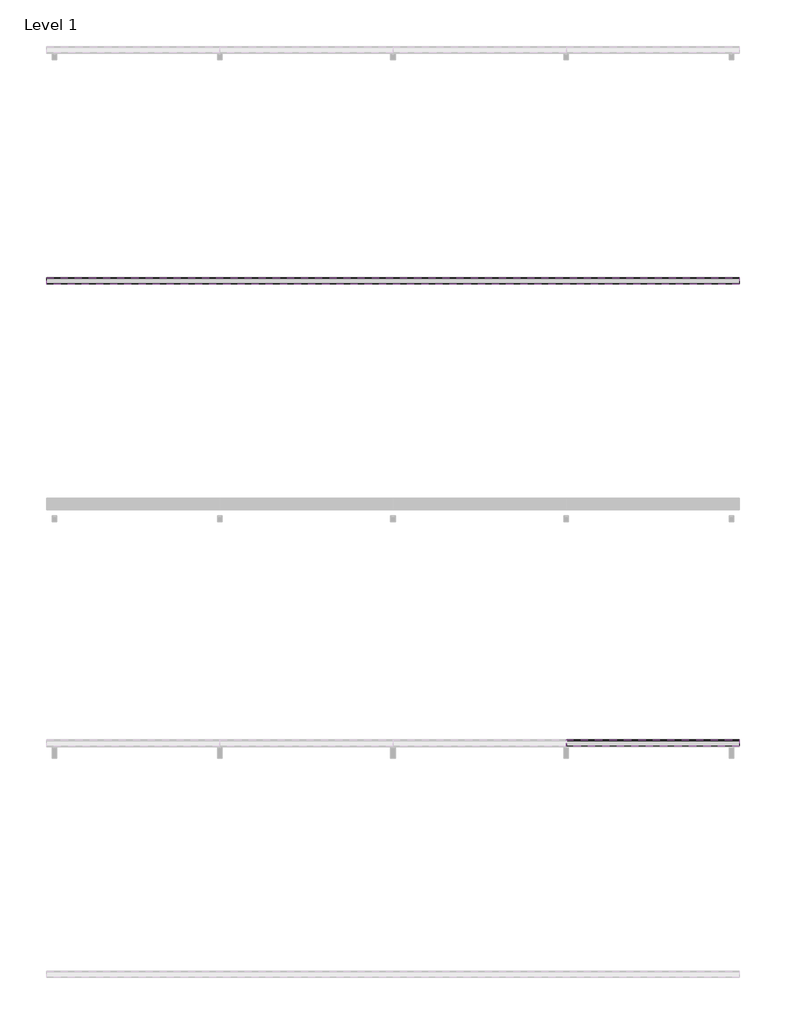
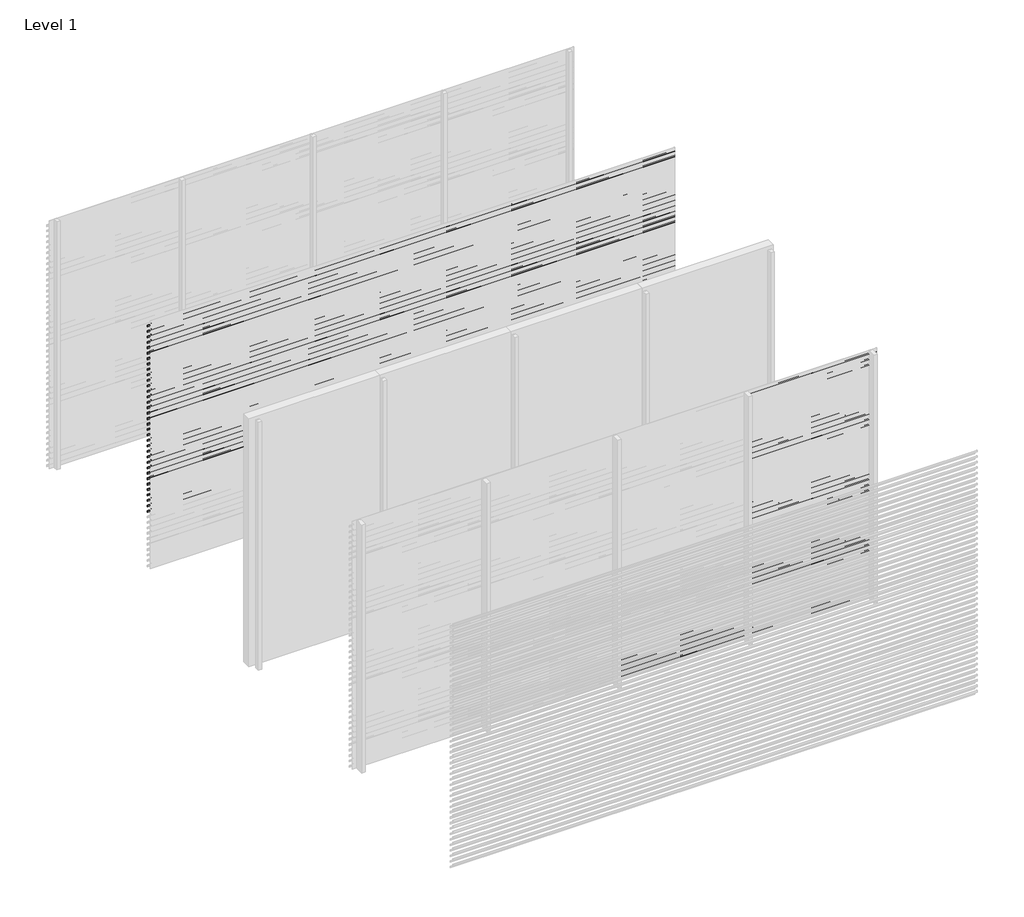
# One storey, part 10 of 25: 87 proxies.
"""IFC4 building model written with IfcOpenShell, lengths in millimetres."""

from ifc_helpers import new_model, si_unit, frame, origin, place, context, project, spatial, polyline, outline, extrude, element, save

model = new_model("IFC4")

# Units and contexts
model_context = context("Model", 3, world=origin())
ifc_project = project(units=[si_unit("LENGTHUNIT", "METRE", prefix="MILLI")], contexts=[model_context])

# Site, building, storey
site = spatial("IfcSite", under=ifc_project)
building = spatial("IfcBuilding", under=site)
storey = spatial("IfcBuildingStorey", under=building, Name="Level 1", Elevation=0.0)

# Proxies
placement = place(None, origin())
element("IfcBuildingElementProxy", 1, Name="Wall Sweeps", at=placement, inside=storey, context=model_context, shape_type="SweptSolid", body=[
    extrude(outline(polyline([(-31943.0, 2913.5), (-31943.0, 2893.5), (-31944.25, 2894.2216933), (-31944.25, 2912.7872415), (-31998.0, 2950.3158044), (-31998.0, 2970.0), (-31996.75, 2970.0), (-31996.75, 2951.0285629), (-31943.0, 2913.5)])), frame((0.0, 0.0, 0.0), z_axis=(1.0, 0.0, 0.0), x_axis=(0.0, 1.0, 0.0)), (0.0, 0.0, 1.0), 6000.0),
])
element("IfcBuildingElementProxy", 2, Name="Wall Sweeps", at=placement, inside=storey, context=model_context, shape_type="SweptSolid", body=[
    extrude(outline(polyline([(-31943.0, 2847.5), (-31943.0, 2827.5), (-31944.25, 2828.2216933), (-31944.25, 2846.7872415), (-31998.0, 2884.3158044), (-31998.0, 2904.0), (-31996.75, 2904.0), (-31996.75, 2885.0285629), (-31943.0, 2847.5)])), frame((0.0, 0.0, 0.0), z_axis=(1.0, 0.0, 0.0), x_axis=(0.0, 1.0, 0.0)), (0.0, 0.0, 1.0), 6000.0),
])
element("IfcBuildingElementProxy", 3, Name="Wall Sweeps", at=placement, inside=storey, context=model_context, shape_type="SweptSolid", body=[
    extrude(outline(polyline([(-31943.0, 2781.5), (-31943.0, 2761.5), (-31944.25, 2762.2216933), (-31944.25, 2780.7872415), (-31998.0, 2818.3158044), (-31998.0, 2838.0), (-31996.75, 2838.0), (-31996.75, 2819.0285629), (-31943.0, 2781.5)])), frame((0.0, 0.0, 0.0), z_axis=(1.0, 0.0, 0.0), x_axis=(0.0, 1.0, 0.0)), (0.0, 0.0, 1.0), 6000.0),
])
element("IfcBuildingElementProxy", 4, Name="Wall Sweeps", at=placement, inside=storey, context=model_context, shape_type="SweptSolid", body=[
    extrude(outline(polyline([(-31943.0, 2715.5), (-31943.0, 2695.5), (-31944.25, 2696.2216933), (-31944.25, 2714.7872415), (-31998.0, 2752.3158044), (-31998.0, 2772.0), (-31996.75, 2772.0), (-31996.75, 2753.0285629), (-31943.0, 2715.5)])), frame((0.0, 0.0, 0.0), z_axis=(1.0, 0.0, 0.0), x_axis=(0.0, 1.0, 0.0)), (0.0, 0.0, 1.0), 6000.0),
])
element("IfcBuildingElementProxy", 5, Name="Wall Sweeps", at=placement, inside=storey, context=model_context, shape_type="SweptSolid", body=[
    extrude(outline(polyline([(-31943.0, 2649.5), (-31943.0, 2629.5), (-31944.25, 2630.2216933), (-31944.25, 2648.7872415), (-31998.0, 2686.3158044), (-31998.0, 2706.0), (-31996.75, 2706.0), (-31996.75, 2687.0285629), (-31943.0, 2649.5)])), frame((0.0, 0.0, 0.0), z_axis=(1.0, 0.0, 0.0), x_axis=(0.0, 1.0, 0.0)), (0.0, 0.0, 1.0), 6000.0),
])
element("IfcBuildingElementProxy", 6, Name="Wall Sweeps", at=placement, inside=storey, context=model_context, shape_type="SweptSolid", body=[
    extrude(outline(polyline([(-31943.0, 2583.5), (-31943.0, 2563.5), (-31944.25, 2564.2216933), (-31944.25, 2582.7872415), (-31998.0, 2620.3158044), (-31998.0, 2640.0), (-31996.75, 2640.0), (-31996.75, 2621.0285629), (-31943.0, 2583.5)])), frame((0.0, 0.0, 0.0), z_axis=(1.0, 0.0, 0.0), x_axis=(0.0, 1.0, 0.0)), (0.0, 0.0, 1.0), 6000.0),
])
element("IfcBuildingElementProxy", 7, Name="Wall Sweeps", at=placement, inside=storey, context=model_context, shape_type="SweptSolid", body=[
    extrude(outline(polyline([(-31943.0, 2517.5), (-31943.0, 2497.5), (-31944.25, 2498.2216933), (-31944.25, 2516.7872415), (-31998.0, 2554.3158044), (-31998.0, 2574.0), (-31996.75, 2574.0), (-31996.75, 2555.0285629), (-31943.0, 2517.5)])), frame((0.0, 0.0, 0.0), z_axis=(1.0, 0.0, 0.0), x_axis=(0.0, 1.0, 0.0)), (0.0, 0.0, 1.0), 6000.0),
])
element("IfcBuildingElementProxy", 8, Name="Wall Sweeps", at=placement, inside=storey, context=model_context, shape_type="SweptSolid", body=[
    extrude(outline(polyline([(-31943.0, 2451.5), (-31943.0, 2431.5), (-31944.25, 2432.2216933), (-31944.25, 2450.7872415), (-31998.0, 2488.3158044), (-31998.0, 2508.0), (-31996.75, 2508.0), (-31996.75, 2489.0285629), (-31943.0, 2451.5)])), frame((0.0, 0.0, 0.0), z_axis=(1.0, 0.0, 0.0), x_axis=(0.0, 1.0, 0.0)), (0.0, 0.0, 1.0), 6000.0),
])
element("IfcBuildingElementProxy", 9, Name="Wall Sweeps", at=placement, inside=storey, context=model_context, shape_type="SweptSolid", body=[
    extrude(outline(polyline([(-31943.0, 2385.5), (-31943.0, 2365.5), (-31944.25, 2366.2216933), (-31944.25, 2384.7872415), (-31998.0, 2422.3158044), (-31998.0, 2442.0), (-31996.75, 2442.0), (-31996.75, 2423.0285629), (-31943.0, 2385.5)])), frame((0.0, 0.0, 0.0), z_axis=(1.0, 0.0, 0.0), x_axis=(0.0, 1.0, 0.0)), (0.0, 0.0, 1.0), 6000.0),
])
element("IfcBuildingElementProxy", 10, Name="Wall Sweeps", at=placement, inside=storey, context=model_context, shape_type="SweptSolid", body=[
    extrude(outline(polyline([(-31943.0, 2319.5), (-31943.0, 2299.5), (-31944.25, 2300.2216933), (-31944.25, 2318.7872415), (-31998.0, 2356.3158044), (-31998.0, 2376.0), (-31996.75, 2376.0), (-31996.75, 2357.0285629), (-31943.0, 2319.5)])), frame((0.0, 0.0, 0.0), z_axis=(1.0, 0.0, 0.0), x_axis=(0.0, 1.0, 0.0)), (0.0, 0.0, 1.0), 6000.0),
])
element("IfcBuildingElementProxy", 11, Name="Wall Sweeps", at=placement, inside=storey, context=model_context, shape_type="SweptSolid", body=[
    extrude(outline(polyline([(-31943.0, 2253.5), (-31943.0, 2233.5), (-31944.25, 2234.2216933), (-31944.25, 2252.7872415), (-31998.0, 2290.3158044), (-31998.0, 2310.0), (-31996.75, 2310.0), (-31996.75, 2291.0285629), (-31943.0, 2253.5)])), frame((0.0, 0.0, 0.0), z_axis=(1.0, 0.0, 0.0), x_axis=(0.0, 1.0, 0.0)), (0.0, 0.0, 1.0), 6000.0),
])
element("IfcBuildingElementProxy", 12, Name="Wall Sweeps", at=placement, inside=storey, context=model_context, shape_type="SweptSolid", body=[
    extrude(outline(polyline([(-31943.0, 2187.5), (-31943.0, 2167.5), (-31944.25, 2168.2216933), (-31944.25, 2186.7872415), (-31998.0, 2224.3158044), (-31998.0, 2244.0), (-31996.75, 2244.0), (-31996.75, 2225.0285629), (-31943.0, 2187.5)])), frame((0.0, 0.0, 0.0), z_axis=(1.0, 0.0, 0.0), x_axis=(0.0, 1.0, 0.0)), (0.0, 0.0, 1.0), 6000.0),
])
element("IfcBuildingElementProxy", 13, Name="Wall Sweeps", at=placement, inside=storey, context=model_context, shape_type="SweptSolid", body=[
    extrude(outline(polyline([(-31943.0, 2121.5), (-31943.0, 2101.5), (-31944.25, 2102.2216933), (-31944.25, 2120.7872415), (-31998.0, 2158.3158044), (-31998.0, 2178.0), (-31996.75, 2178.0), (-31996.75, 2159.0285629), (-31943.0, 2121.5)])), frame((0.0, 0.0, 0.0), z_axis=(1.0, 0.0, 0.0), x_axis=(0.0, 1.0, 0.0)), (0.0, 0.0, 1.0), 6000.0),
])
element("IfcBuildingElementProxy", 14, Name="Wall Sweeps", at=placement, inside=storey, context=model_context, shape_type="SweptSolid", body=[
    extrude(outline(polyline([(-31943.0, 2055.5), (-31943.0, 2035.5), (-31944.25, 2036.2216933), (-31944.25, 2054.7872415), (-31998.0, 2092.3158044), (-31998.0, 2112.0), (-31996.75, 2112.0), (-31996.75, 2093.0285629), (-31943.0, 2055.5)])), frame((0.0, 0.0, 0.0), z_axis=(1.0, 0.0, 0.0), x_axis=(0.0, 1.0, 0.0)), (0.0, 0.0, 1.0), 6000.0),
])
element("IfcBuildingElementProxy", 15, Name="Wall Sweeps", at=placement, inside=storey, context=model_context, shape_type="SweptSolid", body=[
    extrude(outline(polyline([(-31943.0, 1989.5), (-31943.0, 1969.5), (-31944.25, 1970.2216933), (-31944.25, 1988.7872415), (-31998.0, 2026.3158044), (-31998.0, 2046.0), (-31996.75, 2046.0), (-31996.75, 2027.0285629), (-31943.0, 1989.5)])), frame((0.0, 0.0, 0.0), z_axis=(1.0, 0.0, 0.0), x_axis=(0.0, 1.0, 0.0)), (0.0, 0.0, 1.0), 6000.0),
])
element("IfcBuildingElementProxy", 16, Name="Wall Sweeps", at=placement, inside=storey, context=model_context, shape_type="SweptSolid", body=[
    extrude(outline(polyline([(-31943.0, 1923.5), (-31943.0, 1903.5), (-31944.25, 1904.2216933), (-31944.25, 1922.7872415), (-31998.0, 1960.3158044), (-31998.0, 1980.0), (-31996.75, 1980.0), (-31996.75, 1961.0285629), (-31943.0, 1923.5)])), frame((0.0, 0.0, 0.0), z_axis=(1.0, 0.0, 0.0), x_axis=(0.0, 1.0, 0.0)), (0.0, 0.0, 1.0), 6000.0),
])
element("IfcBuildingElementProxy", 17, Name="Wall Sweeps", at=placement, inside=storey, context=model_context, shape_type="SweptSolid", body=[
    extrude(outline(polyline([(-31943.0, 1857.5), (-31943.0, 1837.5), (-31944.25, 1838.2216933), (-31944.25, 1856.7872415), (-31998.0, 1894.3158044), (-31998.0, 1914.0), (-31996.75, 1914.0), (-31996.75, 1895.0285629), (-31943.0, 1857.5)])), frame((0.0, 0.0, 0.0), z_axis=(1.0, 0.0, 0.0), x_axis=(0.0, 1.0, 0.0)), (0.0, 0.0, 1.0), 6000.0),
])
element("IfcBuildingElementProxy", 18, Name="Wall Sweeps", at=placement, inside=storey, context=model_context, shape_type="SweptSolid", body=[
    extrude(outline(polyline([(-31943.0, 1791.5), (-31943.0, 1771.5), (-31944.25, 1772.2216933), (-31944.25, 1790.7872415), (-31998.0, 1828.3158044), (-31998.0, 1848.0), (-31996.75, 1848.0), (-31996.75, 1829.0285629), (-31943.0, 1791.5)])), frame((0.0, 0.0, 0.0), z_axis=(1.0, 0.0, 0.0), x_axis=(0.0, 1.0, 0.0)), (0.0, 0.0, 1.0), 6000.0),
])
element("IfcBuildingElementProxy", 19, Name="Wall Sweeps", at=placement, inside=storey, context=model_context, shape_type="SweptSolid", body=[
    extrude(outline(polyline([(-31943.0, 1725.5), (-31943.0, 1705.5), (-31944.25, 1706.2216933), (-31944.25, 1724.7872415), (-31998.0, 1762.3158044), (-31998.0, 1782.0), (-31996.75, 1782.0), (-31996.75, 1763.0285629), (-31943.0, 1725.5)])), frame((0.0, 0.0, 0.0), z_axis=(1.0, 0.0, 0.0), x_axis=(0.0, 1.0, 0.0)), (0.0, 0.0, 1.0), 6000.0),
])
element("IfcBuildingElementProxy", 20, Name="Wall Sweeps", at=placement, inside=storey, context=model_context, shape_type="SweptSolid", body=[
    extrude(outline(polyline([(-31943.0, 1659.5), (-31943.0, 1639.5), (-31944.25, 1640.2216933), (-31944.25, 1658.7872415), (-31998.0, 1696.3158044), (-31998.0, 1716.0), (-31996.75, 1716.0), (-31996.75, 1697.0285629), (-31943.0, 1659.5)])), frame((0.0, 0.0, 0.0), z_axis=(1.0, 0.0, 0.0), x_axis=(0.0, 1.0, 0.0)), (0.0, 0.0, 1.0), 6000.0),
])
element("IfcBuildingElementProxy", 21, Name="Wall Sweeps", at=placement, inside=storey, context=model_context, shape_type="SweptSolid", body=[
    extrude(outline(polyline([(-31943.0, 1593.5), (-31943.0, 1573.5), (-31944.25, 1574.2216933), (-31944.25, 1592.7872415), (-31998.0, 1630.3158044), (-31998.0, 1650.0), (-31996.75, 1650.0), (-31996.75, 1631.0285629), (-31943.0, 1593.5)])), frame((0.0, 0.0, 0.0), z_axis=(1.0, 0.0, 0.0), x_axis=(0.0, 1.0, 0.0)), (0.0, 0.0, 1.0), 6000.0),
])
element("IfcBuildingElementProxy", 22, Name="Wall Sweeps", at=placement, inside=storey, context=model_context, shape_type="SweptSolid", body=[
    extrude(outline(polyline([(-31943.0, 1527.5), (-31943.0, 1507.5), (-31944.25, 1508.2216933), (-31944.25, 1526.7872415), (-31998.0, 1564.3158044), (-31998.0, 1584.0), (-31996.75, 1584.0), (-31996.75, 1565.0285629), (-31943.0, 1527.5)])), frame((0.0, 0.0, 0.0), z_axis=(1.0, 0.0, 0.0), x_axis=(0.0, 1.0, 0.0)), (0.0, 0.0, 1.0), 6000.0),
])
element("IfcBuildingElementProxy", 23, Name="Wall Sweeps", at=placement, inside=storey, context=model_context, shape_type="SweptSolid", body=[
    extrude(outline(polyline([(-31943.0, 1461.5), (-31943.0, 1441.5), (-31944.25, 1442.2216933), (-31944.25, 1460.7872415), (-31998.0, 1498.3158044), (-31998.0, 1518.0), (-31996.75, 1518.0), (-31996.75, 1499.0285629), (-31943.0, 1461.5)])), frame((0.0, 0.0, 0.0), z_axis=(1.0, 0.0, 0.0), x_axis=(0.0, 1.0, 0.0)), (0.0, 0.0, 1.0), 6000.0),
])
element("IfcBuildingElementProxy", 24, Name="Wall Sweeps", at=placement, inside=storey, context=model_context, shape_type="SweptSolid", body=[
    extrude(outline(polyline([(-31943.0, 1395.5), (-31943.0, 1375.5), (-31944.25, 1376.2216933), (-31944.25, 1394.7872415), (-31998.0, 1432.3158044), (-31998.0, 1452.0), (-31996.75, 1452.0), (-31996.75, 1433.0285629), (-31943.0, 1395.5)])), frame((0.0, 0.0, 0.0), z_axis=(1.0, 0.0, 0.0), x_axis=(0.0, 1.0, 0.0)), (0.0, 0.0, 1.0), 6000.0),
])
element("IfcBuildingElementProxy", 25, Name="Wall Sweeps", at=placement, inside=storey, context=model_context, shape_type="SweptSolid", body=[
    extrude(outline(polyline([(-31943.0, 1329.5), (-31943.0, 1309.5), (-31944.25, 1310.2216933), (-31944.25, 1328.7872415), (-31998.0, 1366.3158044), (-31998.0, 1386.0), (-31996.75, 1386.0), (-31996.75, 1367.0285629), (-31943.0, 1329.5)])), frame((0.0, 0.0, 0.0), z_axis=(1.0, 0.0, 0.0), x_axis=(0.0, 1.0, 0.0)), (0.0, 0.0, 1.0), 6000.0),
])
element("IfcBuildingElementProxy", 26, Name="Wall Sweeps", at=placement, inside=storey, context=model_context, shape_type="SweptSolid", body=[
    extrude(outline(polyline([(-31943.0, 1263.5), (-31943.0, 1243.5), (-31944.25, 1244.2216933), (-31944.25, 1262.7872415), (-31998.0, 1300.3158044), (-31998.0, 1320.0), (-31996.75, 1320.0), (-31996.75, 1301.0285629), (-31943.0, 1263.5)])), frame((0.0, 0.0, 0.0), z_axis=(1.0, 0.0, 0.0), x_axis=(0.0, 1.0, 0.0)), (0.0, 0.0, 1.0), 6000.0),
])
element("IfcBuildingElementProxy", 27, Name="Wall Sweeps", at=placement, inside=storey, context=model_context, shape_type="SweptSolid", body=[
    extrude(outline(polyline([(-31943.0, 1197.5), (-31943.0, 1177.5), (-31944.25, 1178.2216933), (-31944.25, 1196.7872415), (-31998.0, 1234.3158044), (-31998.0, 1254.0), (-31996.75, 1254.0), (-31996.75, 1235.0285629), (-31943.0, 1197.5)])), frame((0.0, 0.0, 0.0), z_axis=(1.0, 0.0, 0.0), x_axis=(0.0, 1.0, 0.0)), (0.0, 0.0, 1.0), 6000.0),
])
element("IfcBuildingElementProxy", 28, Name="Wall Sweeps", at=placement, inside=storey, context=model_context, shape_type="SweptSolid", body=[
    extrude(outline(polyline([(-31943.0, 1131.5), (-31943.0, 1111.5), (-31944.25, 1112.2216933), (-31944.25, 1130.7872415), (-31998.0, 1168.3158044), (-31998.0, 1188.0), (-31996.75, 1188.0), (-31996.75, 1169.0285629), (-31943.0, 1131.5)])), frame((0.0, 0.0, 0.0), z_axis=(1.0, 0.0, 0.0), x_axis=(0.0, 1.0, 0.0)), (0.0, 0.0, 1.0), 6000.0),
])
element("IfcBuildingElementProxy", 29, Name="Wall Sweeps", at=placement, inside=storey, context=model_context, shape_type="SweptSolid", body=[
    extrude(outline(polyline([(-31943.0, 1065.5), (-31943.0, 1045.5), (-31944.25, 1046.2216933), (-31944.25, 1064.7872415), (-31998.0, 1102.3158044), (-31998.0, 1122.0), (-31996.75, 1122.0), (-31996.75, 1103.0285629), (-31943.0, 1065.5)])), frame((0.0, 0.0, 0.0), z_axis=(1.0, 0.0, 0.0), x_axis=(0.0, 1.0, 0.0)), (0.0, 0.0, 1.0), 6000.0),
])
element("IfcBuildingElementProxy", 30, Name="Wall Sweeps", at=placement, inside=storey, context=model_context, shape_type="SweptSolid", body=[
    extrude(outline(polyline([(-31943.0, 999.5), (-31943.0, 979.5), (-31944.25, 980.2216933), (-31944.25, 998.7872415), (-31998.0, 1036.3158044), (-31998.0, 1056.0), (-31996.75, 1056.0), (-31996.75, 1037.0285629), (-31943.0, 999.5)])), frame((0.0, 0.0, 0.0), z_axis=(1.0, 0.0, 0.0), x_axis=(0.0, 1.0, 0.0)), (0.0, 0.0, 1.0), 6000.0),
])
element("IfcBuildingElementProxy", 31, Name="Wall Sweeps", at=placement, inside=storey, context=model_context, shape_type="SweptSolid", body=[
    extrude(outline(polyline([(-31943.0, 933.5), (-31943.0, 913.5), (-31944.25, 914.2216933), (-31944.25, 932.7872415), (-31998.0, 970.3158044), (-31998.0, 990.0), (-31996.75, 990.0), (-31996.75, 971.0285629), (-31943.0, 933.5)])), frame((0.0, 0.0, 0.0), z_axis=(1.0, 0.0, 0.0), x_axis=(0.0, 1.0, 0.0)), (0.0, 0.0, 1.0), 6000.0),
])
element("IfcBuildingElementProxy", 32, Name="Wall Sweeps", at=placement, inside=storey, context=model_context, shape_type="SweptSolid", body=[
    extrude(outline(polyline([(-31943.0, 867.5), (-31943.0, 847.5), (-31944.25, 848.2216933), (-31944.25, 866.7872415), (-31998.0, 904.3158044), (-31998.0, 924.0), (-31996.75, 924.0), (-31996.75, 905.0285629), (-31943.0, 867.5)])), frame((0.0, 0.0, 0.0), z_axis=(1.0, 0.0, 0.0), x_axis=(0.0, 1.0, 0.0)), (0.0, 0.0, 1.0), 6000.0),
])
element("IfcBuildingElementProxy", 33, Name="Wall Sweeps", at=placement, inside=storey, context=model_context, shape_type="SweptSolid", body=[
    extrude(outline(polyline([(-31943.0, 801.5), (-31943.0, 781.5), (-31944.25, 782.2216933), (-31944.25, 800.7872415), (-31998.0, 838.3158044), (-31998.0, 858.0), (-31996.75, 858.0), (-31996.75, 839.0285629), (-31943.0, 801.5)])), frame((0.0, 0.0, 0.0), z_axis=(1.0, 0.0, 0.0), x_axis=(0.0, 1.0, 0.0)), (0.0, 0.0, 1.0), 6000.0),
])
element("IfcBuildingElementProxy", 34, Name="Wall Sweeps", at=placement, inside=storey, context=model_context, shape_type="SweptSolid", body=[
    extrude(outline(polyline([(-31943.0, 735.5), (-31943.0, 715.5), (-31944.25, 716.2216933), (-31944.25, 734.7872415), (-31998.0, 772.3158044), (-31998.0, 792.0), (-31996.75, 792.0), (-31996.75, 773.0285629), (-31943.0, 735.5)])), frame((0.0, 0.0, 0.0), z_axis=(1.0, 0.0, 0.0), x_axis=(0.0, 1.0, 0.0)), (0.0, 0.0, 1.0), 6000.0),
])
element("IfcBuildingElementProxy", 35, Name="Wall Sweeps", at=placement, inside=storey, context=model_context, shape_type="SweptSolid", body=[
    extrude(outline(polyline([(-31943.0, 669.5), (-31943.0, 649.5), (-31944.25, 650.2216933), (-31944.25, 668.7872415), (-31998.0, 706.3158044), (-31998.0, 726.0), (-31996.75, 726.0), (-31996.75, 707.0285629), (-31943.0, 669.5)])), frame((0.0, 0.0, 0.0), z_axis=(1.0, 0.0, 0.0), x_axis=(0.0, 1.0, 0.0)), (0.0, 0.0, 1.0), 6000.0),
])
element("IfcBuildingElementProxy", 36, Name="Wall Sweeps", at=placement, inside=storey, context=model_context, shape_type="SweptSolid", body=[
    extrude(outline(polyline([(-35943.0, 405.5), (-35943.0, 385.5), (-35944.25, 386.2216933), (-35944.25, 404.7872415), (-35998.0, 442.3158044), (-35998.0, 462.0), (-35996.75, 462.0), (-35996.75, 443.0285629), (-35943.0, 405.5)])), frame((3000.0, 0.0, 0.0), z_axis=(1.0, 0.0, 0.0), x_axis=(0.0, 1.0, 0.0)), (0.0, 0.0, 1.0), 1500.0),
])
element("IfcBuildingElementProxy", 37, Name="Wall Sweeps", at=placement, inside=storey, context=model_context, shape_type="SweptSolid", body=[
    extrude(outline(polyline([(-35943.0, 339.5), (-35943.0, 319.5), (-35944.25, 320.2216933), (-35944.25, 338.7872415), (-35998.0, 376.3158044), (-35998.0, 396.0), (-35996.75, 396.0), (-35996.75, 377.0285629), (-35943.0, 339.5)])), frame((3000.0, 0.0, 0.0), z_axis=(1.0, 0.0, 0.0), x_axis=(0.0, 1.0, 0.0)), (0.0, 0.0, 1.0), 1500.0),
])
element("IfcBuildingElementProxy", 38, Name="Wall Sweeps", at=placement, inside=storey, context=model_context, shape_type="SweptSolid", body=[
    extrude(outline(polyline([(-35943.0, 273.5), (-35943.0, 253.5), (-35944.25, 254.2216933), (-35944.25, 272.7872415), (-35998.0, 310.3158044), (-35998.0, 330.0), (-35996.75, 330.0), (-35996.75, 311.0285629), (-35943.0, 273.5)])), frame((3000.0, 0.0, 0.0), z_axis=(1.0, 0.0, 0.0), x_axis=(0.0, 1.0, 0.0)), (0.0, 0.0, 1.0), 1500.0),
])
element("IfcBuildingElementProxy", 39, Name="Wall Sweeps", at=placement, inside=storey, context=model_context, shape_type="SweptSolid", body=[
    extrude(outline(polyline([(-35943.0, 207.5), (-35943.0, 187.5), (-35944.25, 188.2216933), (-35944.25, 206.7872415), (-35998.0, 244.3158044), (-35998.0, 264.0), (-35996.75, 264.0), (-35996.75, 245.0285629), (-35943.0, 207.5)])), frame((3000.0, 0.0, 0.0), z_axis=(1.0, 0.0, 0.0), x_axis=(0.0, 1.0, 0.0)), (0.0, 0.0, 1.0), 1500.0),
])
element("IfcBuildingElementProxy", 40, Name="Wall Sweeps", at=placement, inside=storey, context=model_context, shape_type="SweptSolid", body=[
    extrude(outline(polyline([(-35943.0, 141.5), (-35943.0, 121.5), (-35944.25, 122.2216933), (-35944.25, 140.7872415), (-35998.0, 178.3158044), (-35998.0, 198.0), (-35996.75, 198.0), (-35996.75, 179.0285629), (-35943.0, 141.5)])), frame((3000.0, 0.0, 0.0), z_axis=(1.0, 0.0, 0.0), x_axis=(0.0, 1.0, 0.0)), (0.0, 0.0, 1.0), 1500.0),
])
element("IfcBuildingElementProxy", 41, Name="Wall Sweeps", at=placement, inside=storey, context=model_context, shape_type="SweptSolid", body=[
    extrude(outline(polyline([(-35943.0, 75.5), (-35943.0, 55.5), (-35944.25, 56.2216933), (-35944.25, 74.7872415), (-35998.0, 112.3158044), (-35998.0, 132.0), (-35996.75, 132.0), (-35996.75, 113.0285629), (-35943.0, 75.5)])), frame((3000.0, 0.0, 0.0), z_axis=(1.0, 0.0, 0.0), x_axis=(0.0, 1.0, 0.0)), (0.0, 0.0, 1.0), 1500.0),
])
element("IfcBuildingElementProxy", 42, Name="Wall Sweeps", at=placement, inside=storey, context=model_context, shape_type="SweptSolid", body=[
    extrude(outline(polyline([(-35943.0, 9.5), (-35943.0, -10.5), (-35944.25, -9.7783067), (-35944.25, 8.7872415), (-35998.0, 46.3158044), (-35998.0, 66.0), (-35996.75, 66.0), (-35996.75, 47.0285629), (-35943.0, 9.5)])), frame((3000.0, 0.0, 0.0), z_axis=(1.0, 0.0, 0.0), x_axis=(0.0, 1.0, 0.0)), (0.0, 0.0, 1.0), 1500.0),
])
element("IfcBuildingElementProxy", 43, Name="Wall Sweeps", at=placement, inside=storey, context=model_context, shape_type="SweptSolid", body=[
    extrude(outline(polyline([(-35943.0, 2913.5), (-35943.0, 2893.5), (-35944.25, 2894.2216933), (-35944.25, 2912.7872415), (-35998.0, 2950.3158044), (-35998.0, 2970.0), (-35996.75, 2970.0), (-35996.75, 2951.0285629), (-35943.0, 2913.5)])), frame((4500.0, 0.0, 0.0), z_axis=(1.0, 0.0, 0.0), x_axis=(0.0, 1.0, 0.0)), (0.0, 0.0, 1.0), 1500.0),
])
element("IfcBuildingElementProxy", 44, Name="Wall Sweeps", at=placement, inside=storey, context=model_context, shape_type="SweptSolid", body=[
    extrude(outline(polyline([(-35943.0, 2847.5), (-35943.0, 2827.5), (-35944.25, 2828.2216933), (-35944.25, 2846.7872415), (-35998.0, 2884.3158044), (-35998.0, 2904.0), (-35996.75, 2904.0), (-35996.75, 2885.0285629), (-35943.0, 2847.5)])), frame((4500.0, 0.0, 0.0), z_axis=(1.0, 0.0, 0.0), x_axis=(0.0, 1.0, 0.0)), (0.0, 0.0, 1.0), 1500.0),
])
element("IfcBuildingElementProxy", 45, Name="Wall Sweeps", at=placement, inside=storey, context=model_context, shape_type="SweptSolid", body=[
    extrude(outline(polyline([(-35943.0, 2781.5), (-35943.0, 2761.5), (-35944.25, 2762.2216933), (-35944.25, 2780.7872415), (-35998.0, 2818.3158044), (-35998.0, 2838.0), (-35996.75, 2838.0), (-35996.75, 2819.0285629), (-35943.0, 2781.5)])), frame((4500.0, 0.0, 0.0), z_axis=(1.0, 0.0, 0.0), x_axis=(0.0, 1.0, 0.0)), (0.0, 0.0, 1.0), 1500.0),
])
element("IfcBuildingElementProxy", 46, Name="Wall Sweeps", at=placement, inside=storey, context=model_context, shape_type="SweptSolid", body=[
    extrude(outline(polyline([(-35943.0, 2715.5), (-35943.0, 2695.5), (-35944.25, 2696.2216933), (-35944.25, 2714.7872415), (-35998.0, 2752.3158044), (-35998.0, 2772.0), (-35996.75, 2772.0), (-35996.75, 2753.0285629), (-35943.0, 2715.5)])), frame((4500.0, 0.0, 0.0), z_axis=(1.0, 0.0, 0.0), x_axis=(0.0, 1.0, 0.0)), (0.0, 0.0, 1.0), 1500.0),
])
element("IfcBuildingElementProxy", 47, Name="Wall Sweeps", at=placement, inside=storey, context=model_context, shape_type="SweptSolid", body=[
    extrude(outline(polyline([(-35943.0, 2649.5), (-35943.0, 2629.5), (-35944.25, 2630.2216933), (-35944.25, 2648.7872415), (-35998.0, 2686.3158044), (-35998.0, 2706.0), (-35996.75, 2706.0), (-35996.75, 2687.0285629), (-35943.0, 2649.5)])), frame((4500.0, 0.0, 0.0), z_axis=(1.0, 0.0, 0.0), x_axis=(0.0, 1.0, 0.0)), (0.0, 0.0, 1.0), 1500.0),
])
element("IfcBuildingElementProxy", 48, Name="Wall Sweeps", at=placement, inside=storey, context=model_context, shape_type="SweptSolid", body=[
    extrude(outline(polyline([(-35943.0, 2583.5), (-35943.0, 2563.5), (-35944.25, 2564.2216933), (-35944.25, 2582.7872415), (-35998.0, 2620.3158044), (-35998.0, 2640.0), (-35996.75, 2640.0), (-35996.75, 2621.0285629), (-35943.0, 2583.5)])), frame((4500.0, 0.0, 0.0), z_axis=(1.0, 0.0, 0.0), x_axis=(0.0, 1.0, 0.0)), (0.0, 0.0, 1.0), 1500.0),
])
element("IfcBuildingElementProxy", 49, Name="Wall Sweeps", at=placement, inside=storey, context=model_context, shape_type="SweptSolid", body=[
    extrude(outline(polyline([(-35943.0, 2517.5), (-35943.0, 2497.5), (-35944.25, 2498.2216933), (-35944.25, 2516.7872415), (-35998.0, 2554.3158044), (-35998.0, 2574.0), (-35996.75, 2574.0), (-35996.75, 2555.0285629), (-35943.0, 2517.5)])), frame((4500.0, 0.0, 0.0), z_axis=(1.0, 0.0, 0.0), x_axis=(0.0, 1.0, 0.0)), (0.0, 0.0, 1.0), 1500.0),
])
element("IfcBuildingElementProxy", 50, Name="Wall Sweeps", at=placement, inside=storey, context=model_context, shape_type="SweptSolid", body=[
    extrude(outline(polyline([(-35943.0, 2451.5), (-35943.0, 2431.5), (-35944.25, 2432.2216933), (-35944.25, 2450.7872415), (-35998.0, 2488.3158044), (-35998.0, 2508.0), (-35996.75, 2508.0), (-35996.75, 2489.0285629), (-35943.0, 2451.5)])), frame((4500.0, 0.0, 0.0), z_axis=(1.0, 0.0, 0.0), x_axis=(0.0, 1.0, 0.0)), (0.0, 0.0, 1.0), 1500.0),
])
element("IfcBuildingElementProxy", 51, Name="Wall Sweeps", at=placement, inside=storey, context=model_context, shape_type="SweptSolid", body=[
    extrude(outline(polyline([(-35943.0, 2385.5), (-35943.0, 2365.5), (-35944.25, 2366.2216933), (-35944.25, 2384.7872415), (-35998.0, 2422.3158044), (-35998.0, 2442.0), (-35996.75, 2442.0), (-35996.75, 2423.0285629), (-35943.0, 2385.5)])), frame((4500.0, 0.0, 0.0), z_axis=(1.0, 0.0, 0.0), x_axis=(0.0, 1.0, 0.0)), (0.0, 0.0, 1.0), 1500.0),
])
element("IfcBuildingElementProxy", 52, Name="Wall Sweeps", at=placement, inside=storey, context=model_context, shape_type="SweptSolid", body=[
    extrude(outline(polyline([(-35943.0, 2319.5), (-35943.0, 2299.5), (-35944.25, 2300.2216933), (-35944.25, 2318.7872415), (-35998.0, 2356.3158044), (-35998.0, 2376.0), (-35996.75, 2376.0), (-35996.75, 2357.0285629), (-35943.0, 2319.5)])), frame((4500.0, 0.0, 0.0), z_axis=(1.0, 0.0, 0.0), x_axis=(0.0, 1.0, 0.0)), (0.0, 0.0, 1.0), 1500.0),
])
element("IfcBuildingElementProxy", 53, Name="Wall Sweeps", at=placement, inside=storey, context=model_context, shape_type="SweptSolid", body=[
    extrude(outline(polyline([(-35943.0, 2253.5), (-35943.0, 2233.5), (-35944.25, 2234.2216933), (-35944.25, 2252.7872415), (-35998.0, 2290.3158044), (-35998.0, 2310.0), (-35996.75, 2310.0), (-35996.75, 2291.0285629), (-35943.0, 2253.5)])), frame((4500.0, 0.0, 0.0), z_axis=(1.0, 0.0, 0.0), x_axis=(0.0, 1.0, 0.0)), (0.0, 0.0, 1.0), 1500.0),
])
element("IfcBuildingElementProxy", 54, Name="Wall Sweeps", at=placement, inside=storey, context=model_context, shape_type="SweptSolid", body=[
    extrude(outline(polyline([(-35943.0, 2187.5), (-35943.0, 2167.5), (-35944.25, 2168.2216933), (-35944.25, 2186.7872415), (-35998.0, 2224.3158044), (-35998.0, 2244.0), (-35996.75, 2244.0), (-35996.75, 2225.0285629), (-35943.0, 2187.5)])), frame((4500.0, 0.0, 0.0), z_axis=(1.0, 0.0, 0.0), x_axis=(0.0, 1.0, 0.0)), (0.0, 0.0, 1.0), 1500.0),
])
element("IfcBuildingElementProxy", 55, Name="Wall Sweeps", at=placement, inside=storey, context=model_context, shape_type="SweptSolid", body=[
    extrude(outline(polyline([(-35943.0, 2121.5), (-35943.0, 2101.5), (-35944.25, 2102.2216933), (-35944.25, 2120.7872415), (-35998.0, 2158.3158044), (-35998.0, 2178.0), (-35996.75, 2178.0), (-35996.75, 2159.0285629), (-35943.0, 2121.5)])), frame((4500.0, 0.0, 0.0), z_axis=(1.0, 0.0, 0.0), x_axis=(0.0, 1.0, 0.0)), (0.0, 0.0, 1.0), 1500.0),
])
element("IfcBuildingElementProxy", 56, Name="Wall Sweeps", at=placement, inside=storey, context=model_context, shape_type="SweptSolid", body=[
    extrude(outline(polyline([(-35943.0, 2055.5), (-35943.0, 2035.5), (-35944.25, 2036.2216933), (-35944.25, 2054.7872415), (-35998.0, 2092.3158044), (-35998.0, 2112.0), (-35996.75, 2112.0), (-35996.75, 2093.0285629), (-35943.0, 2055.5)])), frame((4500.0, 0.0, 0.0), z_axis=(1.0, 0.0, 0.0), x_axis=(0.0, 1.0, 0.0)), (0.0, 0.0, 1.0), 1500.0),
])
element("IfcBuildingElementProxy", 57, Name="Wall Sweeps", at=placement, inside=storey, context=model_context, shape_type="SweptSolid", body=[
    extrude(outline(polyline([(-35943.0, 1989.5), (-35943.0, 1969.5), (-35944.25, 1970.2216933), (-35944.25, 1988.7872415), (-35998.0, 2026.3158044), (-35998.0, 2046.0), (-35996.75, 2046.0), (-35996.75, 2027.0285629), (-35943.0, 1989.5)])), frame((4500.0, 0.0, 0.0), z_axis=(1.0, 0.0, 0.0), x_axis=(0.0, 1.0, 0.0)), (0.0, 0.0, 1.0), 1500.0),
])
element("IfcBuildingElementProxy", 58, Name="Wall Sweeps", at=placement, inside=storey, context=model_context, shape_type="SweptSolid", body=[
    extrude(outline(polyline([(-35943.0, 1923.5), (-35943.0, 1903.5), (-35944.25, 1904.2216933), (-35944.25, 1922.7872415), (-35998.0, 1960.3158044), (-35998.0, 1980.0), (-35996.75, 1980.0), (-35996.75, 1961.0285629), (-35943.0, 1923.5)])), frame((4500.0, 0.0, 0.0), z_axis=(1.0, 0.0, 0.0), x_axis=(0.0, 1.0, 0.0)), (0.0, 0.0, 1.0), 1500.0),
])
element("IfcBuildingElementProxy", 59, Name="Wall Sweeps", at=placement, inside=storey, context=model_context, shape_type="SweptSolid", body=[
    extrude(outline(polyline([(-35943.0, 1857.5), (-35943.0, 1837.5), (-35944.25, 1838.2216933), (-35944.25, 1856.7872415), (-35998.0, 1894.3158044), (-35998.0, 1914.0), (-35996.75, 1914.0), (-35996.75, 1895.0285629), (-35943.0, 1857.5)])), frame((4500.0, 0.0, 0.0), z_axis=(1.0, 0.0, 0.0), x_axis=(0.0, 1.0, 0.0)), (0.0, 0.0, 1.0), 1500.0),
])
element("IfcBuildingElementProxy", 60, Name="Wall Sweeps", at=placement, inside=storey, context=model_context, shape_type="SweptSolid", body=[
    extrude(outline(polyline([(-35943.0, 1791.5), (-35943.0, 1771.5), (-35944.25, 1772.2216933), (-35944.25, 1790.7872415), (-35998.0, 1828.3158044), (-35998.0, 1848.0), (-35996.75, 1848.0), (-35996.75, 1829.0285629), (-35943.0, 1791.5)])), frame((4500.0, 0.0, 0.0), z_axis=(1.0, 0.0, 0.0), x_axis=(0.0, 1.0, 0.0)), (0.0, 0.0, 1.0), 1500.0),
])
element("IfcBuildingElementProxy", 61, Name="Wall Sweeps", at=placement, inside=storey, context=model_context, shape_type="SweptSolid", body=[
    extrude(outline(polyline([(-35943.0, 1725.5), (-35943.0, 1705.5), (-35944.25, 1706.2216933), (-35944.25, 1724.7872415), (-35998.0, 1762.3158044), (-35998.0, 1782.0), (-35996.75, 1782.0), (-35996.75, 1763.0285629), (-35943.0, 1725.5)])), frame((4500.0, 0.0, 0.0), z_axis=(1.0, 0.0, 0.0), x_axis=(0.0, 1.0, 0.0)), (0.0, 0.0, 1.0), 1500.0),
])
element("IfcBuildingElementProxy", 62, Name="Wall Sweeps", at=placement, inside=storey, context=model_context, shape_type="SweptSolid", body=[
    extrude(outline(polyline([(-35943.0, 1659.5), (-35943.0, 1639.5), (-35944.25, 1640.2216933), (-35944.25, 1658.7872415), (-35998.0, 1696.3158044), (-35998.0, 1716.0), (-35996.75, 1716.0), (-35996.75, 1697.0285629), (-35943.0, 1659.5)])), frame((4500.0, 0.0, 0.0), z_axis=(1.0, 0.0, 0.0), x_axis=(0.0, 1.0, 0.0)), (0.0, 0.0, 1.0), 1500.0),
])
element("IfcBuildingElementProxy", 63, Name="Wall Sweeps", at=placement, inside=storey, context=model_context, shape_type="SweptSolid", body=[
    extrude(outline(polyline([(-35943.0, 1593.5), (-35943.0, 1573.5), (-35944.25, 1574.2216933), (-35944.25, 1592.7872415), (-35998.0, 1630.3158044), (-35998.0, 1650.0), (-35996.75, 1650.0), (-35996.75, 1631.0285629), (-35943.0, 1593.5)])), frame((4500.0, 0.0, 0.0), z_axis=(1.0, 0.0, 0.0), x_axis=(0.0, 1.0, 0.0)), (0.0, 0.0, 1.0), 1500.0),
])
element("IfcBuildingElementProxy", 64, Name="Wall Sweeps", at=placement, inside=storey, context=model_context, shape_type="SweptSolid", body=[
    extrude(outline(polyline([(-35943.0, 1527.5), (-35943.0, 1507.5), (-35944.25, 1508.2216933), (-35944.25, 1526.7872415), (-35998.0, 1564.3158044), (-35998.0, 1584.0), (-35996.75, 1584.0), (-35996.75, 1565.0285629), (-35943.0, 1527.5)])), frame((4500.0, 0.0, 0.0), z_axis=(1.0, 0.0, 0.0), x_axis=(0.0, 1.0, 0.0)), (0.0, 0.0, 1.0), 1500.0),
])
element("IfcBuildingElementProxy", 65, Name="Wall Sweeps", at=placement, inside=storey, context=model_context, shape_type="SweptSolid", body=[
    extrude(outline(polyline([(-35943.0, 1461.5), (-35943.0, 1441.5), (-35944.25, 1442.2216933), (-35944.25, 1460.7872415), (-35998.0, 1498.3158044), (-35998.0, 1518.0), (-35996.75, 1518.0), (-35996.75, 1499.0285629), (-35943.0, 1461.5)])), frame((4500.0, 0.0, 0.0), z_axis=(1.0, 0.0, 0.0), x_axis=(0.0, 1.0, 0.0)), (0.0, 0.0, 1.0), 1500.0),
])
element("IfcBuildingElementProxy", 66, Name="Wall Sweeps", at=placement, inside=storey, context=model_context, shape_type="SweptSolid", body=[
    extrude(outline(polyline([(-35943.0, 1395.5), (-35943.0, 1375.5), (-35944.25, 1376.2216933), (-35944.25, 1394.7872415), (-35998.0, 1432.3158044), (-35998.0, 1452.0), (-35996.75, 1452.0), (-35996.75, 1433.0285629), (-35943.0, 1395.5)])), frame((4500.0, 0.0, 0.0), z_axis=(1.0, 0.0, 0.0), x_axis=(0.0, 1.0, 0.0)), (0.0, 0.0, 1.0), 1500.0),
])
element("IfcBuildingElementProxy", 67, Name="Wall Sweeps", at=placement, inside=storey, context=model_context, shape_type="SweptSolid", body=[
    extrude(outline(polyline([(-35943.0, 1329.5), (-35943.0, 1309.5), (-35944.25, 1310.2216933), (-35944.25, 1328.7872415), (-35998.0, 1366.3158044), (-35998.0, 1386.0), (-35996.75, 1386.0), (-35996.75, 1367.0285629), (-35943.0, 1329.5)])), frame((4500.0, 0.0, 0.0), z_axis=(1.0, 0.0, 0.0), x_axis=(0.0, 1.0, 0.0)), (0.0, 0.0, 1.0), 1500.0),
])
element("IfcBuildingElementProxy", 68, Name="Wall Sweeps", at=placement, inside=storey, context=model_context, shape_type="SweptSolid", body=[
    extrude(outline(polyline([(-35943.0, 1263.5), (-35943.0, 1243.5), (-35944.25, 1244.2216933), (-35944.25, 1262.7872415), (-35998.0, 1300.3158044), (-35998.0, 1320.0), (-35996.75, 1320.0), (-35996.75, 1301.0285629), (-35943.0, 1263.5)])), frame((4500.0, 0.0, 0.0), z_axis=(1.0, 0.0, 0.0), x_axis=(0.0, 1.0, 0.0)), (0.0, 0.0, 1.0), 1500.0),
])
element("IfcBuildingElementProxy", 69, Name="Wall Sweeps", at=placement, inside=storey, context=model_context, shape_type="SweptSolid", body=[
    extrude(outline(polyline([(-35943.0, 1197.5), (-35943.0, 1177.5), (-35944.25, 1178.2216933), (-35944.25, 1196.7872415), (-35998.0, 1234.3158044), (-35998.0, 1254.0), (-35996.75, 1254.0), (-35996.75, 1235.0285629), (-35943.0, 1197.5)])), frame((4500.0, 0.0, 0.0), z_axis=(1.0, 0.0, 0.0), x_axis=(0.0, 1.0, 0.0)), (0.0, 0.0, 1.0), 1500.0),
])
element("IfcBuildingElementProxy", 70, Name="Wall Sweeps", at=placement, inside=storey, context=model_context, shape_type="SweptSolid", body=[
    extrude(outline(polyline([(-35943.0, 1131.5), (-35943.0, 1111.5), (-35944.25, 1112.2216933), (-35944.25, 1130.7872415), (-35998.0, 1168.3158044), (-35998.0, 1188.0), (-35996.75, 1188.0), (-35996.75, 1169.0285629), (-35943.0, 1131.5)])), frame((4500.0, 0.0, 0.0), z_axis=(1.0, 0.0, 0.0), x_axis=(0.0, 1.0, 0.0)), (0.0, 0.0, 1.0), 1500.0),
])
element("IfcBuildingElementProxy", 71, Name="Wall Sweeps", at=placement, inside=storey, context=model_context, shape_type="SweptSolid", body=[
    extrude(outline(polyline([(-35943.0, 1065.5), (-35943.0, 1045.5), (-35944.25, 1046.2216933), (-35944.25, 1064.7872415), (-35998.0, 1102.3158044), (-35998.0, 1122.0), (-35996.75, 1122.0), (-35996.75, 1103.0285629), (-35943.0, 1065.5)])), frame((4500.0, 0.0, 0.0), z_axis=(1.0, 0.0, 0.0), x_axis=(0.0, 1.0, 0.0)), (0.0, 0.0, 1.0), 1500.0),
])
element("IfcBuildingElementProxy", 72, Name="Wall Sweeps", at=placement, inside=storey, context=model_context, shape_type="SweptSolid", body=[
    extrude(outline(polyline([(-35943.0, 999.5), (-35943.0, 979.5), (-35944.25, 980.2216933), (-35944.25, 998.7872415), (-35998.0, 1036.3158044), (-35998.0, 1056.0), (-35996.75, 1056.0), (-35996.75, 1037.0285629), (-35943.0, 999.5)])), frame((4500.0, 0.0, 0.0), z_axis=(1.0, 0.0, 0.0), x_axis=(0.0, 1.0, 0.0)), (0.0, 0.0, 1.0), 1500.0),
])
element("IfcBuildingElementProxy", 73, Name="Wall Sweeps", at=placement, inside=storey, context=model_context, shape_type="SweptSolid", body=[
    extrude(outline(polyline([(-35943.0, 933.5), (-35943.0, 913.5), (-35944.25, 914.2216933), (-35944.25, 932.7872415), (-35998.0, 970.3158044), (-35998.0, 990.0), (-35996.75, 990.0), (-35996.75, 971.0285629), (-35943.0, 933.5)])), frame((4500.0, 0.0, 0.0), z_axis=(1.0, 0.0, 0.0), x_axis=(0.0, 1.0, 0.0)), (0.0, 0.0, 1.0), 1500.0),
])
element("IfcBuildingElementProxy", 74, Name="Wall Sweeps", at=placement, inside=storey, context=model_context, shape_type="SweptSolid", body=[
    extrude(outline(polyline([(-35943.0, 867.5), (-35943.0, 847.5), (-35944.25, 848.2216933), (-35944.25, 866.7872415), (-35998.0, 904.3158044), (-35998.0, 924.0), (-35996.75, 924.0), (-35996.75, 905.0285629), (-35943.0, 867.5)])), frame((4500.0, 0.0, 0.0), z_axis=(1.0, 0.0, 0.0), x_axis=(0.0, 1.0, 0.0)), (0.0, 0.0, 1.0), 1500.0),
])
element("IfcBuildingElementProxy", 75, Name="Wall Sweeps", at=placement, inside=storey, context=model_context, shape_type="SweptSolid", body=[
    extrude(outline(polyline([(-35943.0, 801.5), (-35943.0, 781.5), (-35944.25, 782.2216933), (-35944.25, 800.7872415), (-35998.0, 838.3158044), (-35998.0, 858.0), (-35996.75, 858.0), (-35996.75, 839.0285629), (-35943.0, 801.5)])), frame((4500.0, 0.0, 0.0), z_axis=(1.0, 0.0, 0.0), x_axis=(0.0, 1.0, 0.0)), (0.0, 0.0, 1.0), 1500.0),
])
element("IfcBuildingElementProxy", 76, Name="Wall Sweeps", at=placement, inside=storey, context=model_context, shape_type="SweptSolid", body=[
    extrude(outline(polyline([(-35943.0, 735.5), (-35943.0, 715.5), (-35944.25, 716.2216933), (-35944.25, 734.7872415), (-35998.0, 772.3158044), (-35998.0, 792.0), (-35996.75, 792.0), (-35996.75, 773.0285629), (-35943.0, 735.5)])), frame((4500.0, 0.0, 0.0), z_axis=(1.0, 0.0, 0.0), x_axis=(0.0, 1.0, 0.0)), (0.0, 0.0, 1.0), 1500.0),
])
element("IfcBuildingElementProxy", 77, Name="Wall Sweeps", at=placement, inside=storey, context=model_context, shape_type="SweptSolid", body=[
    extrude(outline(polyline([(-35943.0, 669.5), (-35943.0, 649.5), (-35944.25, 650.2216933), (-35944.25, 668.7872415), (-35998.0, 706.3158044), (-35998.0, 726.0), (-35996.75, 726.0), (-35996.75, 707.0285629), (-35943.0, 669.5)])), frame((4500.0, 0.0, 0.0), z_axis=(1.0, 0.0, 0.0), x_axis=(0.0, 1.0, 0.0)), (0.0, 0.0, 1.0), 1500.0),
])
element("IfcBuildingElementProxy", 78, Name="Wall Sweeps", at=placement, inside=storey, context=model_context, shape_type="SweptSolid", body=[
    extrude(outline(polyline([(-35943.0, 603.5), (-35943.0, 583.5), (-35944.25, 584.2216933), (-35944.25, 602.7872415), (-35998.0, 640.3158044), (-35998.0, 660.0), (-35996.75, 660.0), (-35996.75, 641.0285629), (-35943.0, 603.5)])), frame((4500.0, 0.0, 0.0), z_axis=(1.0, 0.0, 0.0), x_axis=(0.0, 1.0, 0.0)), (0.0, 0.0, 1.0), 1500.0),
])
element("IfcBuildingElementProxy", 79, Name="Wall Sweeps", at=placement, inside=storey, context=model_context, shape_type="SweptSolid", body=[
    extrude(outline(polyline([(-35943.0, 537.5), (-35943.0, 517.5), (-35944.25, 518.2216933), (-35944.25, 536.7872415), (-35998.0, 574.3158044), (-35998.0, 594.0), (-35996.75, 594.0), (-35996.75, 575.0285629), (-35943.0, 537.5)])), frame((4500.0, 0.0, 0.0), z_axis=(1.0, 0.0, 0.0), x_axis=(0.0, 1.0, 0.0)), (0.0, 0.0, 1.0), 1500.0),
])
element("IfcBuildingElementProxy", 80, Name="Wall Sweeps", at=placement, inside=storey, context=model_context, shape_type="SweptSolid", body=[
    extrude(outline(polyline([(-35943.0, 471.5), (-35943.0, 451.5), (-35944.25, 452.2216933), (-35944.25, 470.7872415), (-35998.0, 508.3158044), (-35998.0, 528.0), (-35996.75, 528.0), (-35996.75, 509.0285629), (-35943.0, 471.5)])), frame((4500.0, 0.0, 0.0), z_axis=(1.0, 0.0, 0.0), x_axis=(0.0, 1.0, 0.0)), (0.0, 0.0, 1.0), 1500.0),
])
element("IfcBuildingElementProxy", 81, Name="Wall Sweeps", at=placement, inside=storey, context=model_context, shape_type="SweptSolid", body=[
    extrude(outline(polyline([(-35943.0, 405.5), (-35943.0, 385.5), (-35944.25, 386.2216933), (-35944.25, 404.7872415), (-35998.0, 442.3158044), (-35998.0, 462.0), (-35996.75, 462.0), (-35996.75, 443.0285629), (-35943.0, 405.5)])), frame((4500.0, 0.0, 0.0), z_axis=(1.0, 0.0, 0.0), x_axis=(0.0, 1.0, 0.0)), (0.0, 0.0, 1.0), 1500.0),
])
element("IfcBuildingElementProxy", 82, Name="Wall Sweeps", at=placement, inside=storey, context=model_context, shape_type="SweptSolid", body=[
    extrude(outline(polyline([(-35943.0, 339.5), (-35943.0, 319.5), (-35944.25, 320.2216933), (-35944.25, 338.7872415), (-35998.0, 376.3158044), (-35998.0, 396.0), (-35996.75, 396.0), (-35996.75, 377.0285629), (-35943.0, 339.5)])), frame((4500.0, 0.0, 0.0), z_axis=(1.0, 0.0, 0.0), x_axis=(0.0, 1.0, 0.0)), (0.0, 0.0, 1.0), 1500.0),
])
element("IfcBuildingElementProxy", 83, Name="Wall Sweeps", at=placement, inside=storey, context=model_context, shape_type="SweptSolid", body=[
    extrude(outline(polyline([(-35943.0, 273.5), (-35943.0, 253.5), (-35944.25, 254.2216933), (-35944.25, 272.7872415), (-35998.0, 310.3158044), (-35998.0, 330.0), (-35996.75, 330.0), (-35996.75, 311.0285629), (-35943.0, 273.5)])), frame((4500.0, 0.0, 0.0), z_axis=(1.0, 0.0, 0.0), x_axis=(0.0, 1.0, 0.0)), (0.0, 0.0, 1.0), 1500.0),
])
element("IfcBuildingElementProxy", 84, Name="Wall Sweeps", at=placement, inside=storey, context=model_context, shape_type="SweptSolid", body=[
    extrude(outline(polyline([(-35943.0, 207.5), (-35943.0, 187.5), (-35944.25, 188.2216933), (-35944.25, 206.7872415), (-35998.0, 244.3158044), (-35998.0, 264.0), (-35996.75, 264.0), (-35996.75, 245.0285629), (-35943.0, 207.5)])), frame((4500.0, 0.0, 0.0), z_axis=(1.0, 0.0, 0.0), x_axis=(0.0, 1.0, 0.0)), (0.0, 0.0, 1.0), 1500.0),
])
element("IfcBuildingElementProxy", 85, Name="Wall Sweeps", at=placement, inside=storey, context=model_context, shape_type="SweptSolid", body=[
    extrude(outline(polyline([(-35943.0, 141.5), (-35943.0, 121.5), (-35944.25, 122.2216933), (-35944.25, 140.7872415), (-35998.0, 178.3158044), (-35998.0, 198.0), (-35996.75, 198.0), (-35996.75, 179.0285629), (-35943.0, 141.5)])), frame((4500.0, 0.0, 0.0), z_axis=(1.0, 0.0, 0.0), x_axis=(0.0, 1.0, 0.0)), (0.0, 0.0, 1.0), 1500.0),
])
element("IfcBuildingElementProxy", 86, Name="Wall Sweeps", at=placement, inside=storey, context=model_context, shape_type="SweptSolid", body=[
    extrude(outline(polyline([(-35943.0, 75.5), (-35943.0, 55.5), (-35944.25, 56.2216933), (-35944.25, 74.7872415), (-35998.0, 112.3158044), (-35998.0, 132.0), (-35996.75, 132.0), (-35996.75, 113.0285629), (-35943.0, 75.5)])), frame((4500.0, 0.0, 0.0), z_axis=(1.0, 0.0, 0.0), x_axis=(0.0, 1.0, 0.0)), (0.0, 0.0, 1.0), 1500.0),
])
element("IfcBuildingElementProxy", 87, Name="Wall Sweeps", at=placement, inside=storey, context=model_context, shape_type="SweptSolid", body=[
    extrude(outline(polyline([(-35943.0, 9.5), (-35943.0, -10.5), (-35944.25, -9.7783067), (-35944.25, 8.7872415), (-35998.0, 46.3158044), (-35998.0, 66.0), (-35996.75, 66.0), (-35996.75, 47.0285629), (-35943.0, 9.5)])), frame((4500.0, 0.0, 0.0), z_axis=(1.0, 0.0, 0.0), x_axis=(0.0, 1.0, 0.0)), (0.0, 0.0, 1.0), 1500.0),
])

save(model, "model.ifc")
